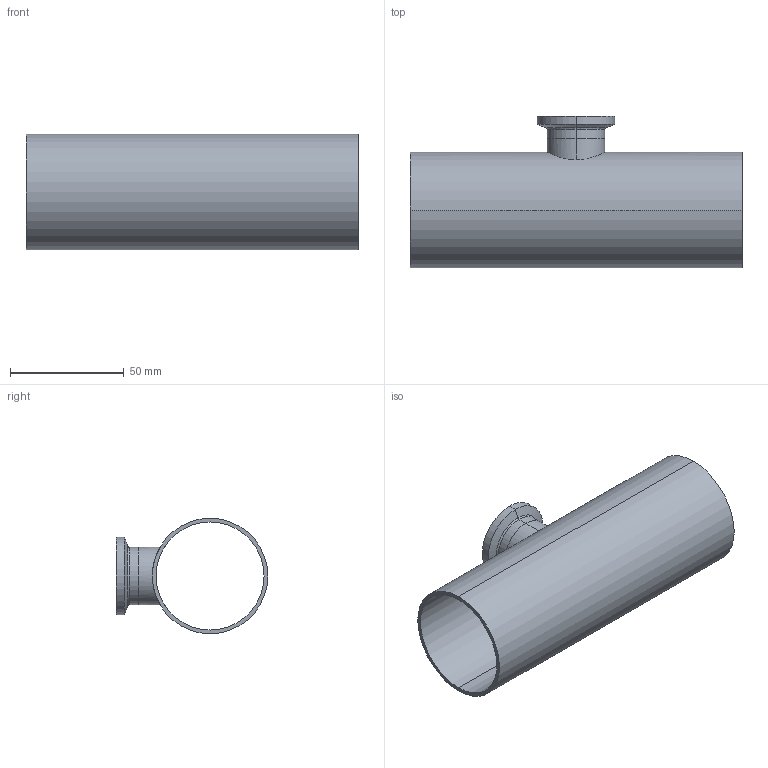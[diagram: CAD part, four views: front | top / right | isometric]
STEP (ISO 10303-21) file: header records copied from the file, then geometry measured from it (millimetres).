
FILE_DESCRIPTION (( 'STEP AP214' ), '1' );
FILE_NAME ('TE7RWWCS6L2.0x1.0-..Type A.STEP', '2016-05-23T12:02:32', ( 'eran' ), ( '' ), 'SwSTEP 2.0', 'SolidWorks 2016', '' );
FILE_SCHEMA (( 'AUTOMOTIVE_DESIGN' ));
Length unit declared in the file: millimetre
Products named in the file (1): TE7RWWCS6L2.0x1.0-..Type A
Bounding box: 146 x 66.7 x 50.8 mm (x, y, z)
Volume: 39964.1 mm3; surface area: 48692.3 mm2
Topology: 2 solids, 2 shells, 34 faces, 72 edges, 44 vertices
Faces by surface type: cylinder 16, bspline 8, plane 6, cone 4
Entity records: 1255 total; most frequent: CARTESIAN_POINT 479, DIRECTION 162, ORIENTED_EDGE 144, EDGE_CURVE 72, AXIS2_PLACEMENT_3D 71, VERTEX_POINT 44, CIRCLE 44, EDGE_LOOP 42
